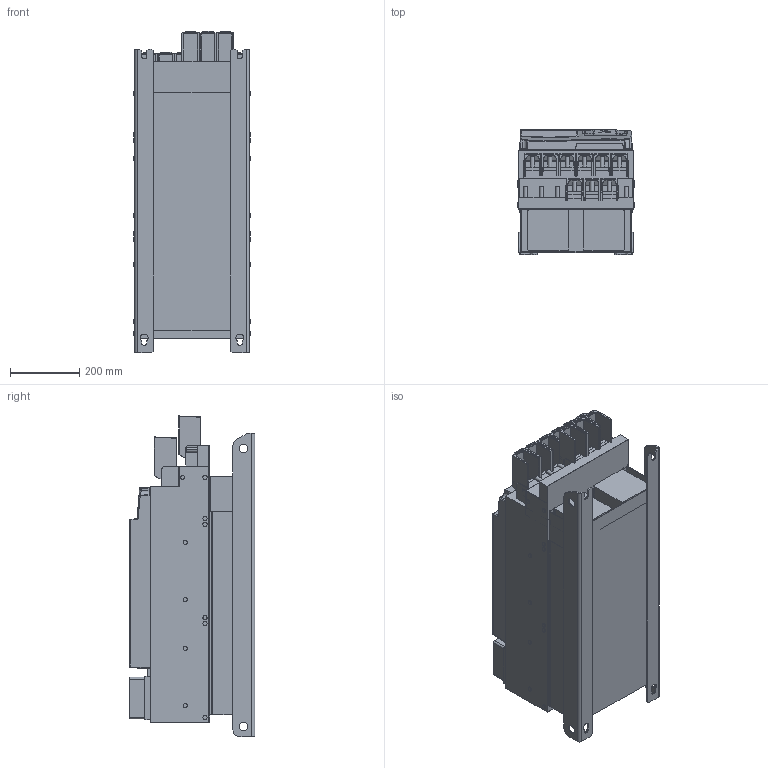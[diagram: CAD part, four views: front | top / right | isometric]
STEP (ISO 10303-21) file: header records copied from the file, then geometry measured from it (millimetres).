
FILE_DESCRIPTION (( 'STEP AP214' ), '1' );
FILE_NAME ('F6-8TR0-K000.STEP', '2021-02-26T14:33:47', ( '' ), ( '' ), 'SwSTEP 2.0', 'SolidWorks 2019', '' );
FILE_SCHEMA (( 'AUTOMOTIVE_DESIGN' ));
Length unit declared in the file: millimetre
Products named in the file (15): 10059765_000; 10061505_000; 10063180_000; F6-8TR0-K000; 10059764_000_Blindabdeckung (Kundenmodell); 10063225_000; 10035735_000_Kundenmodell; 10044088_000_Kundenmodell; 10038044_000_Kundemodell; 10063231_000; 10058413_000; 10047771_000_Kundenmodell; 10040552_000_Kundenmodell; 10063199_000; 10062314_000_Kundenmodell
Assembly tree (14 placements, depth 4):
  F6-8TR0-K000
    10062314_000_Kundenmodell
      10038044_000_Kundemodell
        10063180_000
      10063231_000
    10040552_000_Kundenmodell
      10047771_000_Kundenmodell
        10063225_000
      10063199_000
    10044088_000_Kundenmodell
      10061505_000
    10035735_000_Kundenmodell
      10059764_000_Blindabdeckung (Kundenmodell)
        10059765_000
      10058413_000
Bounding box: 335.5 x 361.9 x 926.36 mm (x, y, z)
Volume: 83685256.2 mm3; surface area: 3172336.5 mm2
Topology: 7 solids, 31 shells, 2849 faces, 7294 edges, 4540 vertices
Faces by surface type: plane 1535, cylinder 802, bspline 223, sphere 154, cone 90, torus 45
Entity records: 92124 total; most frequent: CARTESIAN_POINT 24622, ORIENTED_EDGE 14366, DIRECTION 13304, EDGE_CURVE 7183, LINE 4684, VECTOR 4684, VERTEX_POINT 4537, AXIS2_PLACEMENT_3D 4310
